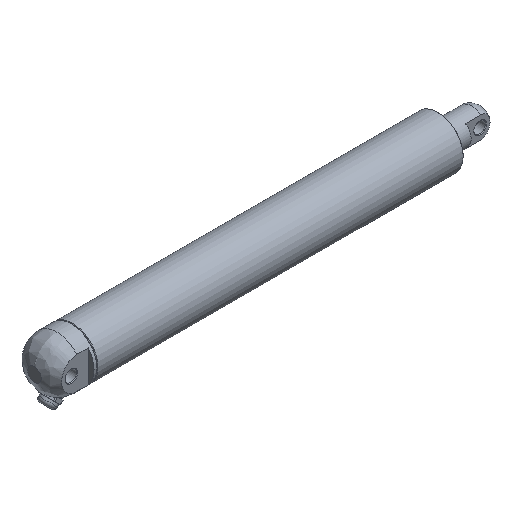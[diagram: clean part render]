
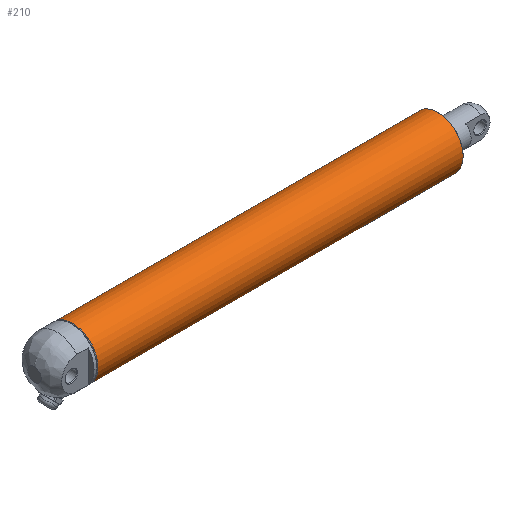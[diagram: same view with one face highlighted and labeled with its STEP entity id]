
A CAD part, isometric view. The second image highlights one B-rep face of the part: STEP entity #210.
In plain terms, the highlighted cylindrical face has radius 22.5 mm (diameter 45 mm), a full revolution.
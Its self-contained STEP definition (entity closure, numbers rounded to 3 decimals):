
#210 = ADVANCED_FACE( '', ( #443, #444 ), #445, .T. );
#443 = FACE_OUTER_BOUND( '', #739, .T. );
#444 = FACE_OUTER_BOUND( '', #740, .T. );
#445 = CYLINDRICAL_SURFACE( '', #741, 22.5 );
#739 = EDGE_LOOP( '', ( #1244 ) );
#740 = EDGE_LOOP( '', ( #1245 ) );
#741 = AXIS2_PLACEMENT_3D( '', #1246, #1247, #1248 );
#1244 = ORIENTED_EDGE( '', *, *, #1381, .T. );
#1245 = ORIENTED_EDGE( '', *, *, #1367, .T. );
#1246 = CARTESIAN_POINT( '', ( 323., 0., 0. ) );
#1247 = DIRECTION( '', ( 1., 0., 0. ) );
#1248 = DIRECTION( '', ( 0., 0., 1. ) );
#1367 = EDGE_CURVE( '', #1631, #1631, #1632, .T. );
#1381 = EDGE_CURVE( '', #1652, #1652, #1653, .F. );
#1631 = VERTEX_POINT( '', #2116 );
#1632 = CIRCLE( '', #2117, 22.5 );
#1652 = VERTEX_POINT( '', #2142 );
#1653 = CIRCLE( '', #2143, 22.5 );
#2116 = CARTESIAN_POINT( '', ( 322.5, 0., 22.5 ) );
#2117 = AXIS2_PLACEMENT_3D( '', #2499, #2500, #2501 );
#2142 = CARTESIAN_POINT( '', ( 0.5, 0., 22.5 ) );
#2143 = AXIS2_PLACEMENT_3D( '', #2519, #2520, #2521 );
#2499 = CARTESIAN_POINT( '', ( 322.5, 0., 0. ) );
#2500 = DIRECTION( '', ( -1., 0., 0. ) );
#2501 = DIRECTION( '', ( 0., 0., 1. ) );
#2519 = CARTESIAN_POINT( '', ( 0.5, 0., 0. ) );
#2520 = DIRECTION( '', ( -1., 0., 0. ) );
#2521 = DIRECTION( '', ( 0., 0., 1. ) );
